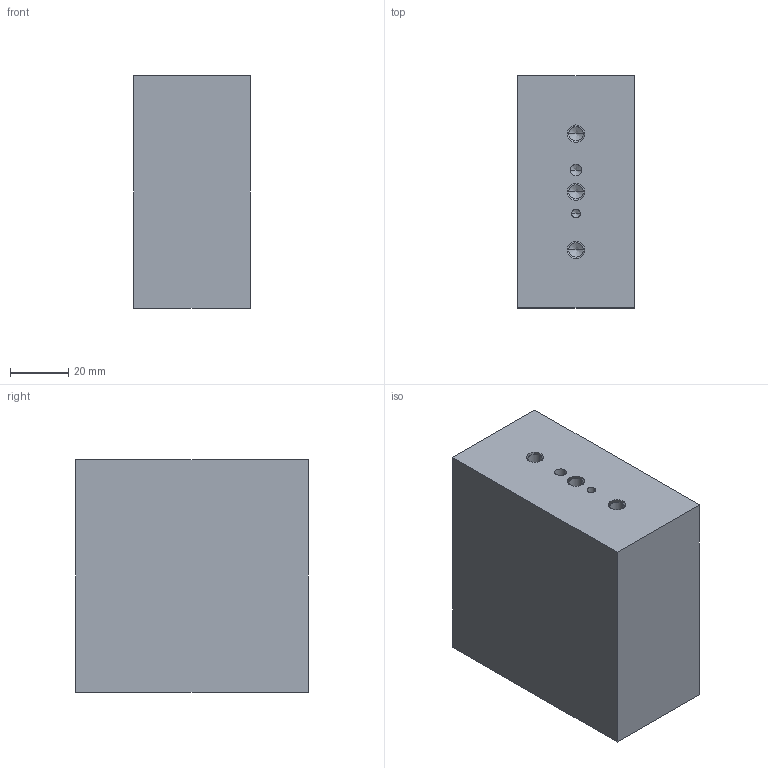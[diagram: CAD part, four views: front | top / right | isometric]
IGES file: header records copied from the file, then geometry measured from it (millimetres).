
Start section: 3D InterOp IGES (v. 2020 1.0.1), Spatial Corp. Copyright (c) 1999-2017.
Global section: file name: V92567_40_80_80.igs; native system: Spatial Corp.; preprocessor: 3D InterOp GENERIC/IGES 3.0; author: Noname; organization: Noname; date: 20201116.103652; units: metre
Bounding box: 40 x 80 x 80 mm (x, y, z)
Surface area: 26461.9 mm2 (no closed solid volume)
Topology: 0 solids, 0 shells, 41 faces, 174 edges, 164 vertices
Faces by surface type: revolution 32, extrusion 9
